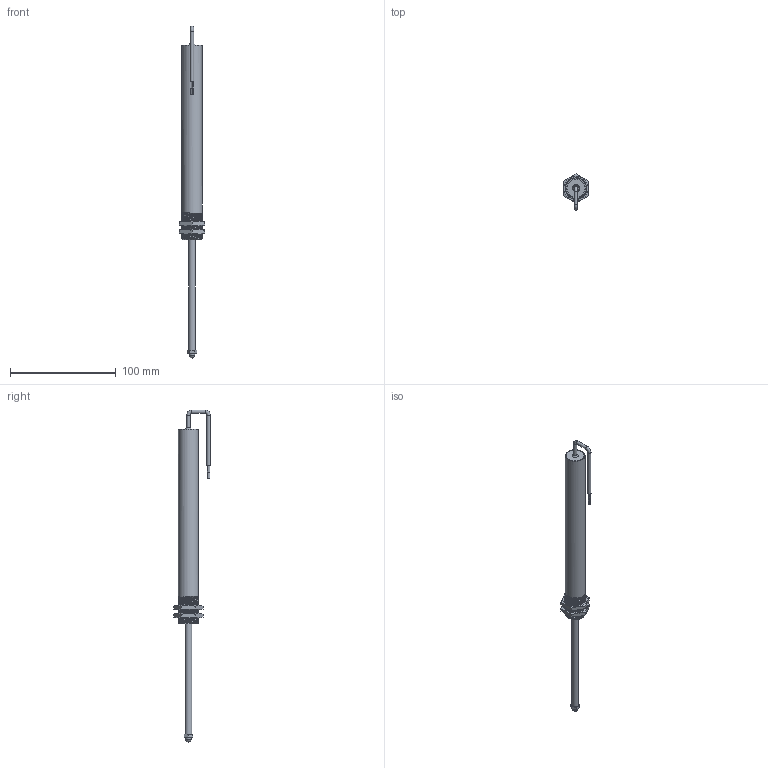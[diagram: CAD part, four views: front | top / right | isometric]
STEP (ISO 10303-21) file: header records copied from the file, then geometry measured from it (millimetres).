
FILE_DESCRIPTION(/* description */ (''),/* implementation_level */ '2;1');
FILE_NAME(/* name */ 'ILPS-18S-100-A-00-YY-Z.stp',/* time_stamp */ '2026-01-27T15:22:28-05:00',/* author */ ('wingm'),/* organization */ (''),/* preprocessor_version */ 'ST-DEVELOPER v20.1',/* originating_system */ 'Autodesk Inventor 2026',/* authorisation */ '');
FILE_SCHEMA (('AUTOMOTIVE_DESIGN { 1 0 10303 214 3 1 1 }'));
Length unit declared in the file: inch
Products named in the file (9): Assembly1; Body; End Cap; Shaft; Lining; Hex Nut; End Cap_1; #8552; ILPS-19-XXX-01 Cable
Assembly tree (9 placements, depth 2):
  Assembly1
    Body
    End Cap
    Shaft
    Lining
    Hex Nut  x2
    End Cap_1
    #8552
    ILPS-19-XXX-01 Cable
Bounding box: 24 x 34.49 x 314.48 mm (x, y, z)
Volume: 16972.3 mm3; surface area: 36464.8 mm2
Topology: 11 solids, 11 shells, 133 faces, 287 edges, 186 vertices
Faces by surface type: cylinder 59, plane 50, bspline 11, cone 10, torus 2, sphere 1
Full cylindrical faces by diameter (mm): 0.635 x4, 0.762 x4, 1.905 x1, 2.845 x3, 3.175 x5, 5.08 x1, 6.35 x2, 6.858 x2, 17.069 x3, 19.05 x29
Entity records: 8535 total; most frequent: CARTESIAN_POINT 5746, ORIENTED_EDGE 478, DIRECTION 468, EDGE_CURVE 239, AXIS2_PLACEMENT_3D 191, VERTEX_POINT 156, EDGE_LOOP 137, FACE_OUTER_BOUND 114
